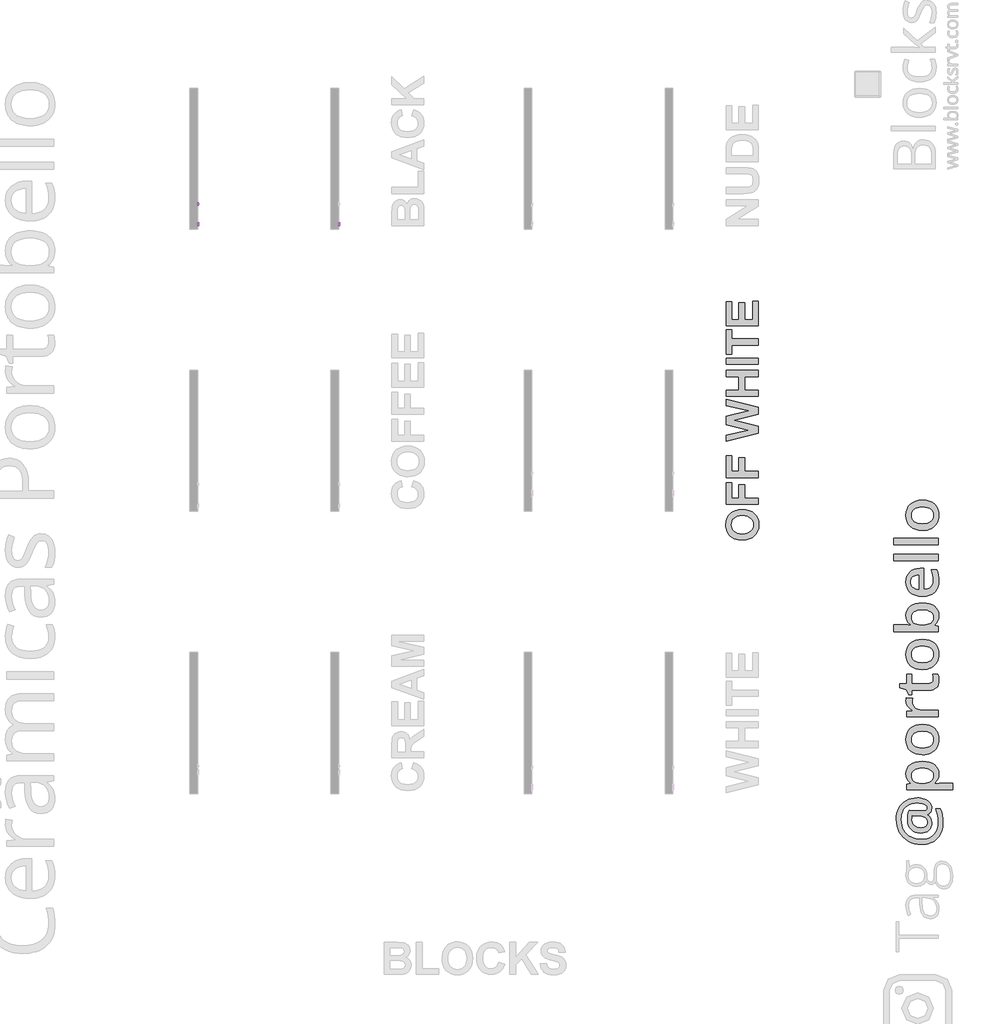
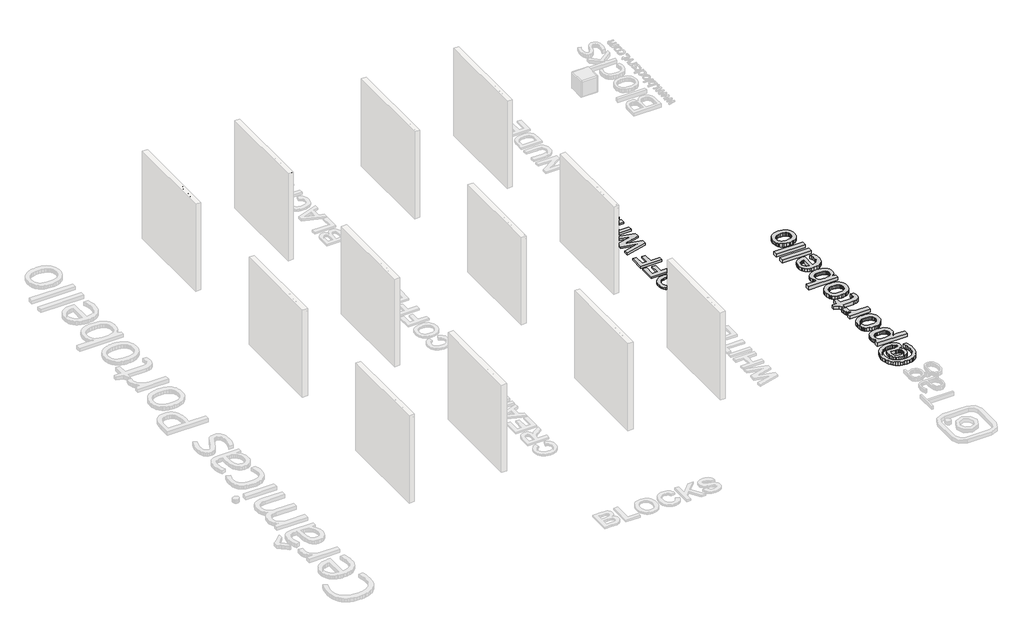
# One storey, part 6 of 8: 5 proxies.
"""IFC4 building model written with IfcOpenShell, lengths in millimetres."""

from ifc_helpers import new_model, si_unit, frame, origin, origin_with_axes, place, context, project, spatial, polyline, outline, extrude, element, save

model = new_model("IFC4")

# Units and contexts
model_context = context("Model", 3, world=origin())
ifc_project = project(units=[si_unit("LENGTHUNIT", "METRE", prefix="MILLI")], contexts=[model_context])

# Site, building, storey
site = spatial("IfcSite", under=ifc_project)
building = spatial("IfcBuilding", under=site)
storey = spatial("IfcBuildingStorey", under=building, Name="PORTOBELLO - SHOWROOM", Elevation=0.0)

# Proxies
placement = place(None, origin())
element("IfcBuildingElementProxy", 1, Name="10mm Arial", ObjectType="10mm Arial", at=placement, inside=storey, context=model_context, shape_type="SweptSolid", body=[
    extrude(outline(polyline([(1635.0884642, 2548.8308244), (1635.0884642, 2649.2871345), (1673.4217681, 2649.2871345), (1692.1960126, 2646.3318158), (1703.2815234, 2637.2451306), (1707.2914371, 2624.3937862), (1703.9191855, 2612.6583505), (1693.7288542, 2603.767869), (1706.101952, 2594.3991409), (1710.4306968, 2578.7764188), (1707.4753781, 2565.2751496), (1700.1545264, 2555.6611668), (1689.2284311, 2550.5598698), (1673.1274625, 2548.8308244), (1635.0884642, 2548.8308244)]), holes=[polyline([(1647.645503, 2608.4767585), (1670.576814, 2608.4767585), (1683.9677186, 2609.5558791), (1692.0243343, 2614.2034549), (1694.7343983, 2622.382698), (1692.2082753, 2630.5742037), (1684.9732627, 2635.4179833), (1668.8355059, 2636.7300958), (1647.645503, 2636.7300958), (1647.645503, 2608.4767585)]), polyline([(1647.645503, 2561.3878632), (1673.3972426, 2561.3878632), (1682.7169198, 2561.8783725), (1690.6018573, 2564.612962), (1695.8257816, 2570.1925056), (1697.873658, 2578.6537915), (1695.4701623, 2588.4149271), (1687.6833268, 2594.2397253), (1672.1709693, 2595.9197198), (1647.645503, 2595.9197198), (1647.645503, 2561.3878632)])]), frame((17014.625413, 0.0, 0.0), z_axis=(1.0, 0.0, 0.0), x_axis=(0.0, 1.0, 0.0)), (0.0, 0.0, 1.0), 20.0),
    extrude(outline(polyline([(17034.625413, 1738.684034), (17034.625413, 1726.1269953), (17014.625413, 1726.1269953), (17014.625413, 1738.684034), (17034.625413, 1738.684034)])), frame((0.0, 0.0, 2548.8308244), z_axis=(0.0, 0.0, 1.0), x_axis=(1.0, 0.0, 0.0)), (0.0, 0.0, 1.0), 100.4563101),
    extrude(outline(polyline([(1804.6084876, 2558.2486035), (1792.4315935, 2549.7382666), (1778.9793752, 2547.2611945), (1768.4855413, 2548.7511166), (1760.744691, 2553.2208829), (1755.9714221, 2560.0083057), (1754.3803325, 2568.4511975), (1756.7838282, 2578.3840113), (1763.0991358, 2585.5944984), (1771.8915155, 2589.7147768), (1782.7562971, 2591.6032377), (1804.5349112, 2595.9197198), (1804.6084876, 2598.7156229), (1801.1503968, 2607.9862492), (1787.2689829, 2611.6160182), (1774.5647913, 2609.2002598), (1768.5070011, 2600.6286093), (1755.9499623, 2602.1982392), (1761.3823531, 2614.4609723), (1772.3207111, 2621.646934), (1788.8876636, 2624.173057), (1804.1057155, 2621.9412396), (1812.7018915, 2616.3371705), (1816.5523897, 2607.8145709), (1817.1655263, 2596.827162), (1817.1655263, 2581.20444), (1817.8031885, 2559.3890376), (1820.304786, 2548.8308244), (1807.7477473, 2548.8308244), (1804.6084876, 2558.2486035)]), holes=[polyline([(1804.6084876, 2583.362681), (1784.3504524, 2579.5121828), (1773.5469844, 2577.4765691), (1768.6541539, 2574.1656311), (1766.9373713, 2569.3341142), (1770.6775049, 2562.5405601), (1781.6526511, 2559.8182333), (1794.3568426, 2562.8226029), (1802.5483484, 2570.0944037), (1804.5349112, 2579.8064884), (1804.6084876, 2583.362681)])]), frame((17014.625413, 0.0, 0.0), z_axis=(1.0, 0.0, 0.0), x_axis=(0.0, 1.0, 0.0)), (0.0, 0.0, 1.0), 20.0),
    extrude(outline(polyline([(1881.52035, 2575.5145318), (1894.0773888, 2573.9449019), (1890.5763785, 2562.7766177), (1883.9974221, 2554.3367916), (1874.9597878, 2549.0300938), (1864.0827435, 2547.2611945), (1850.7255613, 2549.7290696), (1840.2807784, 2557.1326947), (1833.5393408, 2569.1471076), (1831.292195, 2585.4473456), (1835.1304304, 2606.3062548), (1846.8290779, 2619.7094221), (1863.9110652, 2624.173057), (1874.5213951, 2622.6402154), (1883.0041407, 2618.0416904), (1889.0895221, 2610.6227368), (1892.5077589, 2600.6286093), (1879.9507202, 2599.0589795), (1874.1259219, 2608.4644958), (1864.0091671, 2611.6160182), (1855.8943034, 2610.0647825), (1849.4533028, 2605.4110752), (1845.250251, 2597.4035105), (1843.8492337, 2585.7907022), (1845.2195942, 2574.021544), (1849.3306754, 2565.9863881), (1855.6551801, 2561.360272), (1863.6658105, 2559.8182333), (1875.499348, 2563.6687315), (1881.52035, 2575.5145318)])), frame((17014.625413, 0.0, 0.0), z_axis=(1.0, 0.0, 0.0), x_axis=(0.0, 1.0, 0.0)), (0.0, 0.0, 1.0), 20.0),
    extrude(outline(polyline([(1905.0647977, 2548.8308244), (1905.0647977, 2649.2871345), (1917.6218365, 2649.2871345), (1917.6218365, 2595.3065831), (1945.7770718, 2622.6034272), (1963.141102, 2622.6034272), (1934.6425101, 2594.9632266), (1964.7107319, 2548.8308244), (1950.044503, 2548.8308244), (1925.641664, 2586.2321606), (1917.6218365, 2578.4575877), (1917.6218365, 2548.8308244), (1905.0647977, 2548.8308244)])), frame((17014.625413, 0.0, 0.0), z_axis=(1.0, 0.0, 0.0), x_axis=(0.0, 1.0, 0.0)), (0.0, 0.0, 1.0), 20.0),
])
element("IfcBuildingElementProxy", 2, Name="10mm Arial", ObjectType="10mm Arial", at=placement, inside=storey, context=model_context, shape_type="SweptSolid", body=[
    extrude(outline(polyline([(1635.0884642, 2548.8308244), (1635.0884642, 2649.2871345), (1673.4217681, 2649.2871345), (1692.1960126, 2646.3318158), (1703.2815234, 2637.2451306), (1707.2914371, 2624.3937862), (1703.9191855, 2612.6583505), (1693.7288542, 2603.767869), (1706.101952, 2594.3991409), (1710.4306968, 2578.7764188), (1707.4753781, 2565.2751496), (1700.1545264, 2555.6611668), (1689.2284311, 2550.5598698), (1673.1274625, 2548.8308244), (1635.0884642, 2548.8308244)]), holes=[polyline([(1647.645503, 2608.4767585), (1670.576814, 2608.4767585), (1683.9677186, 2609.5558791), (1692.0243343, 2614.2034549), (1694.7343983, 2622.382698), (1692.2082753, 2630.5742037), (1684.9732627, 2635.4179833), (1668.8355059, 2636.7300958), (1647.645503, 2636.7300958), (1647.645503, 2608.4767585)]), polyline([(1647.645503, 2561.3878632), (1673.3972426, 2561.3878632), (1682.7169198, 2561.8783725), (1690.6018573, 2564.612962), (1695.8257816, 2570.1925056), (1697.873658, 2578.6537915), (1695.4701623, 2588.4149271), (1687.6833268, 2594.2397253), (1672.1709693, 2595.9197198), (1647.645503, 2595.9197198), (1647.645503, 2561.3878632)])]), frame((14314.625413, 0.0, 0.0), z_axis=(1.0, 0.0, 0.0), x_axis=(0.0, 1.0, 0.0)), (0.0, 0.0, 1.0), 20.0),
    extrude(outline(polyline([(14334.625413, 1738.684034), (14334.625413, 1726.1269953), (14314.625413, 1726.1269953), (14314.625413, 1738.684034), (14334.625413, 1738.684034)])), frame((0.0, 0.0, 2548.8308244), z_axis=(0.0, 0.0, 1.0), x_axis=(1.0, 0.0, 0.0)), (0.0, 0.0, 1.0), 100.4563101),
    extrude(outline(polyline([(1804.6084876, 2558.2486035), (1792.4315935, 2549.7382666), (1778.9793752, 2547.2611945), (1768.4855413, 2548.7511166), (1760.744691, 2553.2208829), (1755.9714221, 2560.0083057), (1754.3803325, 2568.4511975), (1756.7838282, 2578.3840113), (1763.0991358, 2585.5944984), (1771.8915155, 2589.7147768), (1782.7562971, 2591.6032377), (1804.5349112, 2595.9197198), (1804.6084876, 2598.7156229), (1801.1503968, 2607.9862492), (1787.2689829, 2611.6160182), (1774.5647913, 2609.2002598), (1768.5070011, 2600.6286093), (1755.9499623, 2602.1982392), (1761.3823531, 2614.4609723), (1772.3207111, 2621.646934), (1788.8876636, 2624.173057), (1804.1057155, 2621.9412396), (1812.7018915, 2616.3371705), (1816.5523897, 2607.8145709), (1817.1655263, 2596.827162), (1817.1655263, 2581.20444), (1817.8031885, 2559.3890376), (1820.304786, 2548.8308244), (1807.7477473, 2548.8308244), (1804.6084876, 2558.2486035)]), holes=[polyline([(1804.6084876, 2583.362681), (1784.3504524, 2579.5121828), (1773.5469844, 2577.4765691), (1768.6541539, 2574.1656311), (1766.9373713, 2569.3341142), (1770.6775049, 2562.5405601), (1781.6526511, 2559.8182333), (1794.3568426, 2562.8226029), (1802.5483484, 2570.0944037), (1804.5349112, 2579.8064884), (1804.6084876, 2583.362681)])]), frame((14314.625413, 0.0, 0.0), z_axis=(1.0, 0.0, 0.0), x_axis=(0.0, 1.0, 0.0)), (0.0, 0.0, 1.0), 20.0),
    extrude(outline(polyline([(1881.52035, 2575.5145318), (1894.0773888, 2573.9449019), (1890.5763785, 2562.7766177), (1883.9974221, 2554.3367916), (1874.9597878, 2549.0300938), (1864.0827435, 2547.2611945), (1850.7255613, 2549.7290696), (1840.2807784, 2557.1326947), (1833.5393408, 2569.1471076), (1831.292195, 2585.4473456), (1835.1304304, 2606.3062548), (1846.8290779, 2619.7094221), (1863.9110652, 2624.173057), (1874.5213951, 2622.6402154), (1883.0041407, 2618.0416904), (1889.0895221, 2610.6227368), (1892.5077589, 2600.6286093), (1879.9507202, 2599.0589795), (1874.1259219, 2608.4644958), (1864.0091671, 2611.6160182), (1855.8943034, 2610.0647825), (1849.4533028, 2605.4110752), (1845.250251, 2597.4035105), (1843.8492337, 2585.7907022), (1845.2195942, 2574.021544), (1849.3306754, 2565.9863881), (1855.6551801, 2561.360272), (1863.6658105, 2559.8182333), (1875.499348, 2563.6687315), (1881.52035, 2575.5145318)])), frame((14314.625413, 0.0, 0.0), z_axis=(1.0, 0.0, 0.0), x_axis=(0.0, 1.0, 0.0)), (0.0, 0.0, 1.0), 20.0),
    extrude(outline(polyline([(1905.0647977, 2548.8308244), (1905.0647977, 2649.2871345), (1917.6218365, 2649.2871345), (1917.6218365, 2595.3065831), (1945.7770718, 2622.6034272), (1963.141102, 2622.6034272), (1934.6425101, 2594.9632266), (1964.7107319, 2548.8308244), (1950.044503, 2548.8308244), (1925.641664, 2586.2321606), (1917.6218365, 2578.4575877), (1917.6218365, 2548.8308244), (1905.0647977, 2548.8308244)])), frame((14314.625413, 0.0, 0.0), z_axis=(1.0, 0.0, 0.0), x_axis=(0.0, 1.0, 0.0)), (0.0, 0.0, 1.0), 20.0),
])
element("IfcBuildingElementProxy", 3, Name="10mm Arial Narrow", ObjectType="10mm Arial Narrow", at=placement, inside=storey, context=model_context, shape_type="SweptSolid", body=[
    extrude(outline(polyline([(2024.6117137, 2548.8308244), (2024.6117137, 2649.5494281), (2055.9085984, 2649.5494281), (2072.2042999, 2647.6711074), (2083.677286, 2638.1906642), (2087.9669644, 2621.1715554), (2086.180656, 2609.0957299), (2080.8217308, 2599.4693361), (2071.077942, 2593.1680777), (2056.1370428, 2591.0676582), (2034.3586753, 2591.0676582), (2034.3586753, 2548.8308244), (2024.6117137, 2548.8308244)]), holes=[polyline([(2034.3586753, 2602.4391135), (2057.3300303, 2602.4391135), (2073.1942257, 2606.9699277), (2078.2200028, 2620.6385184), (2075.7451883, 2630.8042949), (2069.7675595, 2636.6042447), (2057.1015858, 2638.1779729), (2034.3586753, 2638.1779729), (2034.3586753, 2602.4391135)])]), frame((14314.625413, 0.0, 0.0), z_axis=(1.0, 0.0, 0.0), x_axis=(0.0, 1.0, 0.0)), (0.0, 0.0, 1.0), 20.0),
    extrude(outline(polyline([(2096.0894325, 2585.3819306), (2098.0439013, 2601.9727061), (2103.907308, 2613.9247909), (2112.7658747, 2621.1493455), (2123.7058238, 2623.5575304), (2134.5188594, 2621.1493455), (2143.4028088, 2613.9247909), (2149.3423636, 2602.1630765), (2151.3222152, 2586.143412), (2149.3772648, 2568.9815254), (2143.5424137, 2556.8390702), (2134.6933655, 2549.6145156), (2123.7058238, 2547.2063308), (2112.8451956, 2549.6208613), (2103.9707647, 2556.8644529), (2098.0597655, 2568.8228834), (2096.0894325, 2585.3819306)]), holes=[polyline([(2105.8363941, 2585.4073133), (2107.140431, 2572.8555619), (2111.0525416, 2563.9843038), (2116.8937383, 2558.7110453), (2123.9850337, 2556.9532924), (2130.7051068, 2558.7269095), (2136.3971801, 2564.0477606), (2140.2807352, 2572.9348829), (2141.5752535, 2585.4073133), (2140.2712167, 2597.9209906), (2136.3591061, 2606.7795573), (2130.5179093, 2612.0528159), (2123.426614, 2613.8105687), (2116.6589482, 2612.0432974), (2110.9763934, 2606.7414833), (2107.1213939, 2597.873398), (2105.8363941, 2585.4073133)])]), frame((14314.625413, 0.0, 0.0), z_axis=(1.0, 0.0, 0.0), x_axis=(0.0, 1.0, 0.0)), (0.0, 0.0, 1.0), 20.0),
    extrude(outline(polyline([(2222.799934, 2556.9532924), (2224.4244276, 2547.2063308), (2217.0634409, 2547.2063308), (2208.7886766, 2549.3257873), (2204.4736154, 2555.1257371), (2203.3060107, 2569.7715623), (2203.3060107, 2612.1860751), (2195.1835426, 2612.1860751), (2195.1835426, 2615.4350624), (2193.559049, 2610.5615815), (2185.9950006, 2612.1860751), (2179.915841, 2609.8635569), (2176.0449773, 2603.3782738), (2174.0651257, 2587.9709673), (2174.0651257, 2548.8308244), (2164.318164, 2548.8308244), (2164.318164, 2621.9330368), (2174.0651257, 2621.9330368), (2174.0651257, 2612.2368406), (2180.309273, 2621.3238517), (2186.7057166, 2623.5575304), (2195.1835426, 2621.9330368), (2203.3060107, 2621.9330368), (2203.3060107, 2638.1779729), (2213.0529723, 2646.3004409), (2213.0529723, 2621.9330368), (2222.799934, 2621.9330368), (2222.799934, 2612.1860751), (2213.0529723, 2612.1860751), (2213.0529723, 2567.5378836), (2213.9159845, 2559.5423291), (2218.5356382, 2556.9532924), (2222.799934, 2556.9532924)])), frame((14314.625413, 0.0, 0.0), z_axis=(1.0, 0.0, 0.0), x_axis=(0.0, 1.0, 0.0)), (0.0, 0.0, 1.0), 20.0),
    extrude(outline(polyline([(2229.2979084, 2585.3819306), (2231.2523773, 2601.9727061), (2237.1157839, 2613.9247909), (2245.9743506, 2621.1493455), (2256.9142997, 2623.5575304), (2267.7273353, 2621.1493455), (2276.6112848, 2613.9247909), (2282.5508395, 2602.1630765), (2284.5306911, 2586.143412), (2282.5857407, 2568.9815254), (2276.7508897, 2556.8390702), (2267.9018415, 2549.6145156), (2256.9142997, 2547.2063308), (2246.0536716, 2549.6208613), (2237.1792407, 2556.8644529), (2231.2682415, 2568.8228834), (2229.2979084, 2585.3819306)]), holes=[polyline([(2239.04487, 2585.4073133), (2240.3489069, 2572.8555619), (2244.2610175, 2563.9843038), (2250.1022142, 2558.7110453), (2257.1935096, 2556.9532924), (2263.9135828, 2558.7269095), (2269.6056561, 2564.0477606), (2273.4892111, 2572.9348829), (2274.7837294, 2585.4073133), (2273.4796926, 2597.9209906), (2269.567582, 2606.7795573), (2263.7263852, 2612.0528159), (2256.6350899, 2613.8105687), (2249.8674241, 2612.0432974), (2244.1848694, 2606.7414833), (2240.3298699, 2597.873398), (2239.04487, 2585.4073133)])]), frame((14314.625413, 0.0, 0.0), z_axis=(1.0, 0.0, 0.0), x_axis=(0.0, 1.0, 0.0)), (0.0, 0.0, 1.0), 20.0),
    extrude(outline(polyline([(2307.2736016, 2548.8308244), (2297.52664, 2548.8308244), (2297.52664, 2649.5494281), (2307.2736016, 2649.5494281), (2307.2736016, 2614.140544), (2314.6726624, 2621.2223208), (2323.8738957, 2623.5575304), (2336.7556224, 2619.3566915), (2346.0330038, 2606.6272611), (2349.5104355, 2585.9403503), (2347.5781765, 2569.4860068), (2341.7813995, 2557.2832677), (2333.4082771, 2549.725565), (2323.7469821, 2547.2063308), (2314.4061439, 2549.8207502), (2307.2736016, 2557.5878602), (2307.2736016, 2548.8308244)]), holes=[polyline([(2307.2736016, 2585.9403503), (2309.3549841, 2568.692797), (2315.2437734, 2559.9611439), (2323.6962167, 2556.9532924), (2329.6389443, 2558.7427737), (2334.8773016, 2564.1112174), (2339.7634738, 2585.5342269), (2335.0549806, 2606.9699277), (2329.8102776, 2612.1004085), (2323.493155, 2613.8105687), (2317.5155262, 2612.0210875), (2312.2232306, 2606.6526438), (2307.2736016, 2585.9403503)])]), frame((14314.625413, 0.0, 0.0), z_axis=(1.0, 0.0, 0.0), x_axis=(0.0, 1.0, 0.0)), (0.0, 0.0, 1.0), 20.0),
    extrude(outline(polyline([(2401.4942309, 2571.5737349), (2411.2411926, 2569.9492413), (2407.5416622, 2560.0626747), (2401.7226754, 2552.9428238), (2394.0190221, 2548.640454), (2384.6654925, 2547.2063308), (2373.0719385, 2549.6208613), (2363.9278162, 2556.8644529), (2357.9882615, 2568.6705872), (2356.0084099, 2584.7727455), (2357.99778, 2601.4396692), (2363.9658903, 2613.6201984), (2372.9799261, 2621.0731974), (2384.1070728, 2623.5575304), (2394.790022, 2621.1588641), (2403.5375393, 2613.962865), (2409.3723904, 2602.2233604), (2411.3173407, 2586.1941774), (2411.2411926, 2582.9451902), (2365.7553715, 2582.9451902), (2371.7583831, 2563.5020323), (2377.6884193, 2558.5904774), (2384.792406, 2556.9532924), (2394.9708738, 2560.608403), (2401.4942309, 2571.5737349)]), holes=[polyline([(2366.4153221, 2592.6921518), (2401.4942309, 2592.6921518), (2397.2299352, 2606.9572363), (2391.4046027, 2612.0972356), (2384.1832209, 2613.8105687), (2371.9741361, 2608.0994584), (2366.4153221, 2592.6921518)])]), frame((14314.625413, 0.0, 0.0), z_axis=(1.0, 0.0, 0.0), x_axis=(0.0, 1.0, 0.0)), (0.0, 0.0, 1.0), 20.0),
    extrude(outline(polyline([(14334.625413, 2433.9841031), (14334.625413, 2424.2371415), (14314.625413, 2424.2371415), (14314.625413, 2433.9841031), (14334.625413, 2433.9841031)])), frame((0.0, 0.0, 2548.8308244), z_axis=(0.0, 0.0, 1.0), x_axis=(1.0, 0.0, 0.0)), (0.0, 0.0, 1.0), 100.7186038),
    extrude(outline(polyline([(14334.625413, 2459.9760009), (14334.625413, 2450.2290392), (14314.625413, 2450.2290392), (14314.625413, 2459.9760009), (14334.625413, 2459.9760009)])), frame((0.0, 0.0, 2548.8308244), z_axis=(0.0, 0.0, 1.0), x_axis=(1.0, 0.0, 0.0)), (0.0, 0.0, 1.0), 100.7186038),
    extrude(outline(polyline([(2471.3474561, 2585.3819306), (2473.301925, 2601.9727061), (2479.1653316, 2613.9247909), (2488.0238983, 2621.1493455), (2498.9638475, 2623.5575304), (2509.7768831, 2621.1493455), (2518.6608325, 2613.9247909), (2524.6003872, 2602.1630765), (2526.5802388, 2586.143412), (2524.6352885, 2568.9815254), (2518.8004374, 2556.8390702), (2509.9513892, 2549.6145156), (2498.9638475, 2547.2063308), (2488.1032193, 2549.6208613), (2479.2287884, 2556.8644529), (2473.3177892, 2568.8228834), (2471.3474561, 2585.3819306)]), holes=[polyline([(2481.0944178, 2585.4073133), (2482.3984546, 2572.8555619), (2486.3105652, 2563.9843038), (2492.151762, 2558.7110453), (2499.2430573, 2556.9532924), (2505.9631305, 2558.7269095), (2511.6552038, 2564.0477606), (2515.5387588, 2572.9348829), (2516.8332772, 2585.4073133), (2515.5292403, 2597.9209906), (2511.6171297, 2606.7795573), (2505.775933, 2612.0528159), (2498.6846376, 2613.8105687), (2491.9169719, 2612.0432974), (2486.2344171, 2606.7414833), (2482.3794176, 2597.873398), (2481.0944178, 2585.4073133)])]), frame((14314.625413, 0.0, 0.0), z_axis=(1.0, 0.0, 0.0), x_axis=(0.0, 1.0, 0.0)), (0.0, 0.0, 1.0), 20.0),
])
element("IfcBuildingElementProxy", 4, Name="600mm Arial", ObjectType="600mm Arial", at=placement, inside=storey, context=model_context, shape_type="SweptSolid", body=[
    extrude(outline(polyline([(24745.6422373, -4372.7858442), (24700.8350862, -4371.0683316), (24659.7855869, -4365.9157939), (24622.4937394, -4357.3282311), (24588.9595437, -4345.3056431), (24544.7217338, -4321.0706867), (24505.2284337, -4289.3583828), (24472.9088326, -4252.2183597), (24450.1921194, -4211.7002455), (24439.6308404, -4182.5309989), (24432.0870698, -4151.1982558), (24427.5608074, -4117.7020162), (24426.0520532, -4082.0422801), (24431.2852476, -4018.940299), (24446.9848307, -3962.4806316), (24473.1508026, -3912.6632781), (24509.7831632, -3869.4882384), (24531.7371964, -3850.8067308), (24555.7337412, -3834.616091), (24609.8543651, -3809.7074142), (24672.1450351, -3794.7622081), (24742.605751, -3789.7804728), (24812.5872714, -3794.7242521), (24874.503125, -3809.5555899), (24928.3533119, -3834.2744862), (24952.2537803, -3850.3417689), (24974.1378321, -3868.8809412), (25010.670558, -3911.7713103), (25036.7653622, -3961.3419493), (25052.4222447, -4017.5928582), (25057.6412056, -4080.5240369), (25052.4459673, -4144.1194471), (25036.8602524, -4200.8448069), (25010.8840609, -4250.7001165), (24974.5173929, -4293.6853758), (24929.0412659, -4328.2918307), (24875.7366976, -4353.0107271), (24814.6036881, -4367.8420649), (24745.6422373, -4372.7858442)]), holes=[polyline([(24741.3911565, -4256.1847699), (24789.8136241, -4253.086605), (24831.9923167, -4243.7921102), (24867.9272344, -4228.3012855), (24897.6183771, -4206.6141309), (24920.8664754, -4180.1539994), (24937.4722599, -4150.344244), (24947.4357306, -4117.1848646), (24950.7568875, -4080.6758612), (24947.4594531, -4044.2048139), (24937.5671501, -4011.1593028), (24921.0799783, -3981.5393277), (24897.9979379, -3955.3448888), (24868.3210287, -3933.9234268), (24832.0492508, -3918.6223825), (24789.1826043, -3909.4417559), (24739.721089, -3906.3815471), (24690.9475276, -3909.3610993), (24648.778324, -3918.2997558), (24613.2134781, -3933.1975168), (24584.2529899, -3954.0543821), (24561.8019693, -3979.8455377), (24545.765526, -4009.5461694), (24536.14366, -4043.1562773), (24532.9363713, -4080.6758612), (24536.1816161, -4118.2334013), (24545.9173503, -4151.9573773), (24562.143574, -4181.8477895), (24584.8602872, -4207.9046376), (24614.114935, -4229.0271955), (24649.9549625, -4244.1147368), (24692.3803696, -4253.1672616), (24741.3911565, -4256.1847699)])]), origin_with_axes(), (0.0, 0.0, 1.0), 50.0),
    extrude(outline(polyline([(25047.9244494, -3692.6129109), (24435.7688094, -3692.6129109), (24435.7688094, -3274.7923947), (24542.6531275, -3274.7923947), (24542.6531275, -3576.0118366), (24678.6877142, -3576.0118366), (24678.6877142, -3313.6594195), (24785.5720323, -3313.6594195), (24785.5720323, -3576.0118366), (25047.9244494, -3576.0118366), (25047.9244494, -3692.6129109)])), origin_with_axes(), (0.0, 0.0, 1.0), 50.0),
    extrude(outline(polyline([(25047.9244494, -3177.6248328), (24435.7688094, -3177.6248328), (24435.7688094, -2759.8043166), (24542.6531275, -2759.8043166), (24542.6531275, -3061.0237585), (24678.6877142, -3061.0237585), (24678.6877142, -2798.6713414), (24785.5720323, -2798.6713414), (24785.5720323, -3061.0237585), (25047.9244494, -3061.0237585), (25047.9244494, -3177.6248328)])), origin_with_axes(), (0.0, 0.0, 1.0), 50.0),
    extrude(outline(polyline([(25047.9244494, -2333.6334631), (24435.7688094, -2487.7351433), (24435.7688094, -2368.0975827), (24856.3221633, -2269.108129), (24435.7688094, -2162.6792839), (24435.7688094, -2005.844766), (24863.3060818, -1899.8713938), (24435.7688094, -1800.8819401), (24435.7688094, -1681.2443795), (25047.9244494, -1833.068695), (25047.9244494, -1971.0769978), (24590.3259626, -2084.4897614), (25047.9244494, -2200.1798898), (25047.9244494, -2333.6334631)])), origin_with_axes(), (0.0, 0.0, 1.0), 50.0),
    extrude(outline(polyline([(25047.9244494, -1622.9438424), (24435.7688094, -1622.9438424), (24435.7688094, -1506.3427681), (24678.6877142, -1506.3427681), (24678.6877142, -1243.990351), (24435.7688094, -1243.990351), (24435.7688094, -1127.3892767), (25047.9244494, -1127.3892767), (25047.9244494, -1243.990351), (24785.5720323, -1243.990351), (24785.5720323, -1506.3427681), (25047.9244494, -1506.3427681), (25047.9244494, -1622.9438424)])), origin_with_axes(), (0.0, 0.0, 1.0), 50.0),
    extrude(outline(polyline([(25047.9244494, -1010.7882024), (24435.7688094, -1010.7882024), (24435.7688094, -894.1871282), (25047.9244494, -894.1871282), (25047.9244494, -1010.7882024)])), origin_with_axes(), (0.0, 0.0, 1.0), 50.0),
    extrude(outline(polyline([(25047.9244494, -641.5514672), (24542.6531275, -641.5514672), (24542.6531275, -816.4530786), (24435.7688094, -816.4530786), (24435.7688094, -350.0487815), (24542.6531275, -350.0487815), (24542.6531275, -524.9503929), (25047.9244494, -524.9503929), (25047.9244494, -641.5514672)])), origin_with_axes(), (0.0, 0.0, 1.0), 50.0),
    extrude(outline(polyline([(25047.9244494, -272.314732), (24435.7688094, -272.314732), (24435.7688094, 184.3728089), (24542.6531275, 184.3728089), (24542.6531275, -155.7136577), (24678.6877142, -155.7136577), (24678.6877142, 164.9392966), (24785.5720323, 164.9392966), (24785.5720323, -155.7136577), (24941.0401313, -155.7136577), (24941.0401313, 194.0895651), (25047.9244494, 194.0895651), (25047.9244494, -272.314732)])), origin_with_axes(), (0.0, 0.0, 1.0), 50.0),
])
element("IfcBuildingElementProxy", 5, Name="80mm OpenSans Bold", ObjectType="80mm OpenSans Bold", at=placement, inside=storey, context=model_context, shape_type="SweptSolid", body=[
    extrude(outline(polyline([(28088.588782, -9309.9050274), (28126.6943967, -9311.4523873), (28163.1324682, -9316.0944669), (28197.9029966, -9323.8312662), (28231.0059818, -9334.6627853), (28261.4874689, -9348.3035888), (28288.3935032, -9364.4682415), (28311.7240845, -9383.1567432), (28331.479213, -9404.369094), (28347.2006897, -9427.7146983), (28358.4303159, -9452.8029603), (28365.1680917, -9479.63388), (28367.4140169, -9508.2074574), (28361.7053106, -9548.8294097), (28354.5694277, -9566.9770867), (28344.5791917, -9583.6825641), (28332.155244, -9598.3599485), (28317.7182261, -9610.4233463), (28301.2681382, -9619.8727576), (28282.8049801, -9626.7081822), (28282.8049801, -9633.4384465), (28319.8214337, -9663.6044526), (28346.2617577, -9700.2603563), (28362.1259521, -9742.6249663), (28367.4140169, -9789.9170913), (28363.8610984, -9832.5821596), (28353.2023428, -9870.4398962), (28335.4377501, -9903.4903012), (28310.5673203, -9931.7333746), (28279.6276344, -9954.3428562), (28243.6552731, -9970.4924859), (28202.6502366, -9980.1822637), (28156.6125247, -9983.4121897), (28103.4689757, -9979.1306599), (28055.5684228, -9966.2860707), (28012.910866, -9944.878422), (27975.4963053, -9914.9077139), (27945.0523754, -9877.7260082), (27923.3067112, -9834.6853672), (27910.2593127, -9785.7857907), (27905.9101798, -9731.0272788), (27907.742975, -9686.7096902), (27913.2413606, -9637.8852283), (27921.984695, -9589.6616828), (27933.5523367, -9547.1468437), (28184.7354147, -9559.4055393), (28197.4748436, -9559.4055393), (28235.3325802, -9555.8000406), (28262.3738207, -9544.9835444), (28271.8382548, -9536.8711723), (28278.598565, -9526.9560508), (28284.006813, -9501.7175597), (28280.544032, -9480.9634076), (28270.1556888, -9462.4476694), (28252.8417834, -9446.1703449), (28228.6023159, -9432.1314342), (28198.9996691, -9420.8266934), (28165.5962257, -9412.7518786), (28128.3919857, -9407.9069897), (28087.3869491, -9406.2920267), (28042.2956806, -9408.7107154), (28000.0437424, -9415.9667816), (27960.6311345, -9428.0602253), (27924.0578568, -9444.9910464), (27890.9173143, -9466.3836722), (27861.8029121, -9491.8625298), (27836.7146501, -9521.4276194), (27815.6525283, -9555.0789409), (27798.9846082, -9592.0803715), (27787.0789509, -9631.6957888), (27779.9355566, -9673.9251927), (27777.5544251, -9718.7685831), (27780.5439845, -9775.7429744), (27789.5126626, -9828.8865234), (27804.4604594, -9878.1992299), (27825.3873749, -9923.6810941), (27851.8652562, -9964.6711078), (27883.4659502, -10000.5082628), (27920.1894571, -10031.1925593), (27962.0357767, -10056.7239971), (28008.2237177, -10076.8096296), (28057.9720887, -10091.15651), (28111.2808896, -10099.7646382), (28168.1501206, -10102.6340143), (28242.3257455, -10097.2783464), (28307.412509, -10081.2113427), (28336.5475677, -10069.1610899), (28363.4104111, -10054.4330032), (28388.0010391, -10037.0270825), (28410.3194518, -10016.9433278), (28430.1778628, -9994.3582585), (28447.3884856, -9969.4483936), (28461.9513203, -9942.2137331), (28473.8663669, -9912.6542772), (28489.7530956, -9846.5609786), (28495.0486719, -9771.1684979), (28491.9539522, -9709.454378), (28482.6697929, -9646.418242), (28467.1961942, -9582.0600897), (28445.533156, -9516.3799212), (28535.6706242, -9516.3799212), (28556.2820586, -9575.6002378), (28571.0045117, -9637.4044951), (28579.8379836, -9701.7926932), (28582.7824743, -9768.7648321), (28581.0867631, -9818.3798747), (28575.9996298, -9865.1893887), (28567.5210742, -9909.1933739), (28555.6510963, -9950.3918305), (28540.3896963, -9988.7847584), (28521.7368739, -10024.3721575), (28499.6926294, -10057.154028), (28474.2569626, -10087.1303697), (28445.7866677, -10113.9180986), (28414.6385388, -10137.1341302), (28380.812576, -10156.7784647), (28344.3087793, -10172.851102), (28305.1271486, -10185.3520421), (28263.2676839, -10194.281285), (28218.7303853, -10199.6388308), (28171.5152527, -10201.4246794), (28102.4474177, -10197.5637912), (28037.3005626, -10185.9811265), (27976.0746874, -10166.6766854), (27918.769792, -10139.6504679), (27866.6703353, -10105.7738027), (27821.0607764, -10065.9180189), (27781.9411152, -10020.0831163), (27749.3113518, -9968.269095), (27723.599639, -9911.6477421), (27705.2341298, -9851.3908446), (27694.2148243, -9787.4984026), (27690.5417225, -9719.970416), (27693.6063964, -9661.749123), (27702.8004182, -9606.7878018), (27718.1237878, -9555.0864523), (27739.5765052, -9506.6450746), (27766.6928602, -9462.4626923), (27799.0071426, -9423.5383289), (27836.5193522, -9389.8719846), (27879.2294892, -9361.4636592), (27926.2962705, -9338.9067578), (27976.8784131, -9322.7946853), (28030.9759169, -9313.1274419), (28088.588782, -9309.9050274)]), holes=[polyline([(28158.5354573, -9878.1316268), (28187.9428063, -9876.542954), (28213.4291755, -9871.7769353), (28234.9945647, -9863.8335709), (28252.6389741, -9852.7128608), (28266.3624036, -9838.4148049), (28276.1648533, -9820.9394033), (28282.0463231, -9800.2866559), (28284.006813, -9776.4565627), (28281.5430556, -9751.1730029), (28274.1517832, -9728.9240712), (28261.8329959, -9709.7097675), (28244.5866936, -9693.530092), (28222.4128765, -9680.3850445), (28195.3115443, -9670.2746252), (28163.2826973, -9663.1988339), (28126.3263354, -9659.1576708), (27997.7302141, -9652.4274065), (27990.8797665, -9688.7227604), (27988.596284, -9727.42178), (27991.4581486, -9761.0355442), (28000.0437424, -9790.7283285), (28014.3530655, -9816.500133), (28034.3861178, -9838.3509575), (28059.3166392, -9855.7550004), (28088.3183696, -9868.1864595), (28121.391309, -9875.645335), (28158.5354573, -9878.1316268)])]), origin_with_axes(), (0.0, 0.0, 1.0), 100.0),
    extrude(outline(polyline([(28505.8651681, -8851.2855893), (28500.6672407, -8904.8422683), (28485.0734587, -8952.0592787), (28459.0838221, -8992.9366205), (28422.6983308, -9027.4742937), (28422.6983308, -9035.1660244), (28516.6816643, -9027.4742937), (28767.3840091, -9027.4742937), (28767.3840091, -9156.3107816), (27890.5267186, -9156.3107816), (27890.5267186, -9051.9916851), (27967.6843914, -9033.9641914), (27967.6843914, -9027.4742937), (27945.9950631, -9011.6439009), (27927.1976452, -8993.9581785), (27911.2921378, -8974.4171265), (27898.2785409, -8953.020745), (27888.1568543, -8929.769034), (27880.9270782, -8904.6619933), (27875.1432574, -8848.8819234), (27880.3036274, -8796.07639), (27895.7847376, -8749.4302502), (27921.5865878, -8708.9435041), (27957.7091782, -8674.6161516), (28003.1459736, -8647.2744529), (28056.890439, -8627.7446682), (28118.9425744, -8616.0267973), (28189.3023798, -8612.1208403), (28259.8349487, -8616.0944004), (28322.1650079, -8628.0150806), (28376.2925576, -8647.8828808), (28422.2175976, -8675.6978012), (28458.8134097, -8710.5133983), (28484.9532755, -8751.3832287), (28500.6371949, -8798.3072923), (28505.8651681, -8851.2855893)]), holes=[polyline([(27982.827486, -8882.7736115), (27985.6217475, -8917.859621), (27994.0045321, -8947.8829093), (28007.9758396, -8972.8434766), (28027.5356702, -8992.7413227), (28053.2248487, -9007.9369975), (28085.5841997, -9018.791051), (28124.6137235, -9025.303483), (28170.3134198, -9027.4742937), (28189.3023798, -9027.4742937), (28240.6506908, -9025.3260174), (28284.3673629, -9018.8811884), (28320.452396, -9008.1398068), (28348.9057901, -8993.1018725), (28370.4636679, -8973.1814921), (28385.8621521, -8947.7927719), (28395.1012426, -8916.9357119), (28398.1809394, -8880.6103122), (28394.7707385, -8849.6856492), (28384.5401359, -8822.5317369), (28367.4891315, -8799.1485754), (28343.6177253, -8779.5361646), (28313.4517193, -8764.0250086), (28277.5169153, -8752.9456115), (28235.8133134, -8746.2979732), (28188.3409135, -8744.0820938), (28140.710773, -8746.2829503), (28099.2550491, -8752.8855198), (28063.9737417, -8763.8898024), (28034.866851, -8779.295798), (28012.0996288, -8798.9683004), (27995.8373273, -8822.7721035), (27986.0799463, -8850.7072072), (27982.827486, -8882.7736115)])]), origin_with_axes(), (0.0, 0.0, 1.0), 100.0),
    extrude(outline(polyline([(28189.3023798, -7904.0008903), (28259.8349487, -7908.8082219), (28322.1650079, -7923.2302168), (28376.2925576, -7947.266875), (28422.2175976, -7980.9181964), (28441.8224969, -8001.0902107), (28458.8134097, -8023.1476003), (28473.1903359, -8047.0903653), (28484.9532755, -8072.9185056), (28500.6371949, -8130.2309125), (28505.8651681, -8195.0848209), (28503.4539908, -8236.7358426), (28496.220459, -8275.8780382), (28484.1645726, -8312.5114075), (28467.2863317, -8346.6359507), (28445.9087288, -8377.6131939), (28420.3547566, -8404.8046635), (28390.624415, -8428.2103594), (28356.717704, -8447.8302817), (28319.2580746, -8463.3414376), (28278.8689774, -8474.4208348), (28235.5504124, -8481.068473), (28189.3023798, -8483.2843525), (28119.3331701, -8478.5145781), (28057.4913555, -8464.205255), (28003.7769359, -8440.3563833), (27958.1899114, -8406.9679627), (27938.7258518, -8386.9104982), (27921.8570002, -8364.8962995), (27907.5833566, -8340.9253665), (27895.9049209, -8314.9976994), (27880.3336732, -8257.2721625), (27875.1432574, -8191.7196887), (27880.461368, -8128.8262703), (27896.4156998, -8072.8283682), (27923.006253, -8023.7259824), (27960.2330273, -7981.5191129), (28006.4585256, -7947.6048905), (28060.0452504, -7923.3804459), (28120.9932018, -7908.8457792), (28189.3023798, -7904.0008903)]), holes=[polyline([(28189.3023798, -8350.6019993), (28238.2582922, -8348.1382418), (28280.6867496, -8340.7469694), (28316.5877521, -8328.4281821), (28345.9612995, -8311.1818799), (28368.807392, -8289.0080627), (28385.1260294, -8261.9067306), (28394.9172119, -8229.8778836), (28398.1809394, -8192.9215216), (28394.9172119, -8156.3031752), (28385.1260294, -8124.5672749), (28368.807392, -8097.7138209), (28345.9612995, -8075.742813), (28316.5877521, -8058.6542513), (28280.6867496, -8046.4481358), (28238.2582922, -8039.1244665), (28189.3023798, -8036.6832434), (28140.9098266, -8039.1394894), (28098.9696138, -8046.5082275), (28063.4817414, -8058.7894575), (28034.4462095, -8075.9831796), (28011.863018, -8098.0893936), (27995.7321669, -8125.1080997), (27986.0536562, -8157.0392978), (27982.827486, -8193.882988), (27986.1625723, -8232.2740379), (27996.1678313, -8265.0014504), (28012.8432629, -8292.0652252), (28036.1888672, -8313.4653624), (28065.7689797, -8329.7126411), (28101.1479359, -8341.3178401), (28142.325736, -8348.2809595), (28189.3023798, -8350.6019993)])]), origin_with_axes(), (0.0, 0.0, 1.0), 100.0),
    extrude(outline(polyline([(27875.1432574, -7453.3135493), (27876.5253652, -7418.6406699), (27880.6716887, -7390.5778715), (28000.8549796, -7402.8365671), (27995.8072814, -7430.2383575), (27994.1247154, -7458.6016141), (27997.2645038, -7494.6566014), (28006.6838693, -7527.10609), (28022.3828116, -7555.9500798), (28044.361331, -7581.1885709), (28071.3575027, -7601.6948449), (28102.1094022, -7616.3421835), (28136.6170296, -7625.1305866), (28174.8803849, -7628.0600543), (28490.4817068, -7628.0600543), (28490.4817068, -7756.8965422), (27890.5267186, -7756.8965422), (27890.5267186, -7655.9425778), (27992.6825159, -7638.8765505), (27992.6825159, -7632.3866528), (27967.0384062, -7616.5900615), (27944.188558, -7598.5250106), (27924.1329713, -7578.1915), (27906.8716462, -7555.5895299), (27892.9904761, -7531.3951311), (27883.0753546, -7506.2843348), (27877.1262817, -7480.2571409), (27875.1432574, -7453.3135493)])), origin_with_axes(), (0.0, 0.0, 1.0), 100.0),
    extrude(outline(polyline([(28398.1809394, -7034.3545972), (28394.515349, -6986.4615558), (28383.5185779, -6938.4483311), (28483.2707094, -6938.4483311), (28492.1041813, -6963.206089), (28499.3752704, -6994.213378), (28504.2426936, -7028.9463491), (28505.8651681, -7064.8811531), (28502.83054, -7108.2598097), (28493.7266557, -7145.8546453), (28478.5535152, -7177.6656602), (28457.3111185, -7203.6928541), (28429.9994657, -7223.9362272), (28396.6185566, -7238.3957794), (28357.1683914, -7247.0715107), (28311.64897, -7249.9634211), (27982.827486, -7249.9634211), (27982.827486, -7333.6109916), (27928.7450051, -7333.6109916), (27884.0368209, -7243.9542566), (27752.0755675, -7199.9671721), (27752.0755675, -7120.4058335), (27890.5267186, -7120.4058335), (27890.5267186, -6944.6978622), (27982.827486, -6944.6978622), (27982.827486, -7120.4058335), (28307.3223715, -7120.4058335), (28329.007944, -7118.9260767), (28347.6739114, -7114.4868064), (28363.3202736, -7107.0880226), (28375.9470306, -7096.7297252), (28385.6743657, -7083.9527391), (28392.6224622, -7069.297889), (28398.1809394, -7034.3545972)])), origin_with_axes(), (0.0, 0.0, 1.0), 100.0),
    extrude(outline(polyline([(28189.3023798, -6273.3539991), (28259.8349487, -6278.1613308), (28322.1650079, -6292.5833257), (28376.2925576, -6316.6199839), (28422.2175976, -6350.2713053), (28441.8224969, -6370.4433195), (28458.8134097, -6392.5007092), (28473.1903359, -6416.4434741), (28484.9532755, -6442.2716145), (28500.6371949, -6499.5840214), (28505.8651681, -6564.4379297), (28503.4539908, -6606.0889515), (28496.220459, -6645.231147), (28484.1645726, -6681.8645164), (28467.2863317, -6715.9890596), (28445.9087288, -6746.9663028), (28420.3547566, -6774.1577724), (28390.624415, -6797.5634683), (28356.717704, -6817.1833905), (28319.2580746, -6832.6945465), (28278.8689774, -6843.7739436), (28235.5504124, -6850.4215819), (28189.3023798, -6852.6374613), (28119.3331701, -6847.867687), (28057.4913555, -6833.5583639), (28003.7769359, -6809.7094921), (27958.1899114, -6776.3210716), (27938.7258518, -6756.2636071), (27921.8570002, -6734.2494083), (27907.5833566, -6710.2784754), (27895.9049209, -6684.3508082), (27880.3336732, -6626.6252713), (27875.1432574, -6561.0727976), (27880.461368, -6498.1793792), (27896.4156998, -6442.181477), (27923.006253, -6393.0790912), (27960.2330273, -6350.8722218), (28006.4585256, -6316.9579994), (28060.0452504, -6292.7335548), (28120.9932018, -6278.198888), (28189.3023798, -6273.3539991)]), holes=[polyline([(28189.3023798, -6719.9551082), (28238.2582922, -6717.4913507), (28280.6867496, -6710.1000783), (28316.5877521, -6697.781291), (28345.9612995, -6680.5349887), (28368.807392, -6658.3611716), (28385.1260294, -6631.2598395), (28394.9172119, -6599.2309924), (28398.1809394, -6562.2746305), (28394.9172119, -6525.656284), (28385.1260294, -6493.9203838), (28368.807392, -6467.0669297), (28345.9612995, -6445.0959218), (28316.5877521, -6428.0073602), (28280.6867496, -6415.8012447), (28238.2582922, -6408.4775754), (28189.3023798, -6406.0363523), (28140.9098266, -6408.4925983), (28098.9696138, -6415.8613363), (28063.4817414, -6428.1425664), (28034.4462095, -6445.3362884), (28011.863018, -6467.4425025), (27995.7321669, -6494.4612086), (27986.0536562, -6526.3924067), (27982.827486, -6563.2360968), (27986.1625723, -6601.6271468), (27996.1678313, -6634.3545592), (28012.8432629, -6661.418334), (28036.1888672, -6682.8184713), (28065.7689797, -6699.0657499), (28101.1479359, -6710.6709489), (28142.325736, -6717.6340684), (28189.3023798, -6719.9551082)])]), origin_with_axes(), (0.0, 0.0, 1.0), 100.0),
    extrude(outline(polyline([(27875.1432574, -5818.3400597), (27880.3036274, -5765.5345263), (27895.7847376, -5718.8883865), (27921.5865878, -5678.4016404), (27957.7091782, -5644.0742879), (28003.1459736, -5616.7325892), (28056.890439, -5597.2028044), (28118.9425744, -5585.4849336), (28189.3023798, -5581.5789766), (28260.0302465, -5585.5300023), (28322.4654661, -5597.3830794), (28376.6080387, -5617.1382078), (28422.4579642, -5644.7953876), (28458.9486159, -5679.48329), (28485.0133671, -5720.330586), (28500.6522178, -5767.3372756), (28505.8651681, -5820.503359), (28500.6672407, -5874.1651984), (28485.0734587, -5921.4573233), (28459.0838221, -5962.3797339), (28422.6983308, -5996.93243), (28422.6983308, -6005.585627), (28490.4817068, -6029.141552), (28490.4817068, -6125.7689179), (27644.3913388, -6125.7689179), (27644.3913388, -5996.93243), (27844.3763349, -5996.93243), (27910.3569616, -5999.0957293), (27966.0018253, -6002.2204948), (27966.0018253, -5996.93243), (27944.7068484, -5980.8917164), (27926.2512018, -5963.0557649), (27910.6348854, -5943.4245755), (27897.8578993, -5921.9981481), (27887.9202435, -5898.7764829), (27880.8219178, -5873.7595797), (27875.1432574, -5818.3400597)]), holes=[polyline([(27982.827486, -5852.2317478), (27985.6743277, -5887.775956), (27994.2148528, -5917.9720079), (28008.4490613, -5942.8199033), (28028.3769533, -5962.3196422), (28054.9750178, -5977.102187), (28089.2197443, -5987.7984999), (28131.1111326, -5994.4085809), (28180.6491829, -5996.93243), (28189.3023798, -5996.93243), (28240.6506908, -5994.7841537), (28284.3673629, -5988.3393247), (28320.452396, -5977.5979431), (28348.9057901, -5962.5600088), (28370.4636679, -5942.6396284), (28385.8621521, -5917.2509081), (28395.1012426, -5886.3938482), (28398.1809394, -5850.0684485), (28394.8082958, -5818.5578919), (28384.690365, -5791.0884985), (28367.827147, -5767.6602682), (28344.2186418, -5748.2732011), (28314.2404222, -5733.0775263), (28278.2680609, -5722.2234728), (28236.301558, -5715.7110407), (28188.3409135, -5713.54023), (28140.1737039, -5715.707285), (28098.428789, -5722.2084499), (28063.1061686, -5733.0437247), (28034.2058429, -5748.2131095), (28011.7278117, -5767.7166042), (27995.6720752, -5791.5542088), (27986.0386333, -5819.7259233), (27982.827486, -5852.2317478)])]), origin_with_axes(), (0.0, 0.0, 1.0), 100.0),
    extrude(outline(polyline([(28505.8651681, -5152.7649946), (28500.6897751, -5219.5793929), (28485.1635962, -5278.6870377), (28473.518962, -5305.3508275), (28459.2866314, -5330.0879289), (28442.4666043, -5352.898342), (28423.0588806, -5373.7820666), (28377.7422685, -5408.6427324), (28324.5987196, -5433.543208), (28263.6282338, -5448.4834934), (28194.8308112, -5453.4635885), (28124.2982423, -5448.8440433), (28061.7278165, -5434.9854075), (28007.1195337, -5411.8876813), (27960.4733939, -5379.5508646), (27923.1414592, -5339.1317216), (27896.4757915, -5291.7870164), (27880.4763909, -5237.5167491), (27875.1432574, -5176.3209197), (27879.6351078, -5119.6019178), (27893.1106593, -5069.14747), (27915.5699118, -5024.9575762), (27947.0128653, -4987.0322365), (27986.3278244, -4956.5883066), (28032.4030935, -4934.8426424), (28085.2386728, -4921.7952439), (28144.8345622, -4917.446111), (28213.5794046, -4917.446111), (28213.5794046, -5320.7812353), (28255.4783044, -5316.8151867), (28292.2393685, -5307.5610733), (28323.8625969, -5293.0188951), (28350.3479896, -5273.1886521), (28371.2749052, -5248.4308942), (28386.222702, -5219.1061712), (28395.1913801, -5185.2144832), (28398.1809394, -5146.7558301), (28395.6570903, -5094.9868775), (28388.085543, -5046.8835153), (28374.6250144, -4998.9003364), (28354.4342215, -4947.4919338), (28462.3588168, -4947.4919338), (28482.6697929, -4994.8741962), (28496.0101382, -5042.7972834), (28503.4014106, -5094.3859611), (28505.8651681, -5152.7649946)]), holes=[polyline([(27967.4440248, -5176.5612862), (27969.9002708, -5205.5780395), (27977.2690088, -5231.5751877), (27989.5502388, -5254.5527306), (28006.7439609, -5274.5106683), (28028.6398542, -5291.1034739), (28055.027598, -5303.9856204), (28085.9071923, -5313.1571078), (28121.2786371, -5318.6179361), (28121.2786371, -5044.1192996), (28085.7118945, -5046.8309351), (28054.7271398, -5053.7640087), (28028.3243731, -5064.9185204), (28006.5035943, -5080.2944702), (27989.4150326, -5099.4261478), (27977.2089172, -5121.847843), (27969.8852479, -5147.5595558), (27967.4440248, -5176.5612862)])]), origin_with_axes(), (0.0, 0.0, 1.0), 100.0),
    extrude(outline(polyline([(28490.4817068, -4643.6685743), (28490.4817068, -4772.5050622), (27644.3913388, -4772.5050622), (27644.3913388, -4643.6685743), (28490.4817068, -4643.6685743)])), origin_with_axes(), (0.0, 0.0, 1.0), 100.0),
    extrude(outline(polyline([(28490.4817068, -4335.9993496), (28490.4817068, -4464.8358374), (27644.3913388, -4464.8358374), (27644.3913388, -4335.9993496), (28490.4817068, -4335.9993496)])), origin_with_axes(), (0.0, 0.0, 1.0), 100.0),
    extrude(outline(polyline([(28189.3023798, -3612.0152051), (28259.8349487, -3616.8225367), (28322.1650079, -3631.2445316), (28376.2925576, -3655.2811898), (28422.2175976, -3688.9325113), (28441.8224969, -3709.1045255), (28458.8134097, -3731.1619151), (28473.1903359, -3755.1046801), (28484.9532755, -3780.9328205), (28500.6371949, -3838.2452273), (28505.8651681, -3903.0991357), (28503.4539908, -3944.7501575), (28496.220459, -3983.892353), (28484.1645726, -4020.5257224), (28467.2863317, -4054.6502655), (28445.9087288, -4085.6275088), (28420.3547566, -4112.8189783), (28390.624415, -4136.2246743), (28356.717704, -4155.8445965), (28319.2580746, -4171.3557525), (28278.8689774, -4182.4351496), (28235.5504124, -4189.0827879), (28189.3023798, -4191.2986673), (28119.3331701, -4186.528893), (28057.4913555, -4172.2195699), (28003.7769359, -4148.3706981), (27958.1899114, -4114.9822776), (27938.7258518, -4094.924813), (27921.8570002, -4072.9106143), (27907.5833566, -4048.9396814), (27895.9049209, -4023.0120142), (27880.3336732, -3965.2864773), (27875.1432574, -3899.7340036), (27880.461368, -3836.8405851), (27896.4156998, -3780.842683), (27923.006253, -3731.7402972), (27960.2330273, -3689.5334277), (28006.4585256, -3655.6192053), (28060.0452504, -3631.3947608), (28120.9932018, -3616.860094), (28189.3023798, -3612.0152051)]), holes=[polyline([(28189.3023798, -4058.6163141), (28238.2582922, -4056.1525567), (28280.6867496, -4048.7612843), (28316.5877521, -4036.442497), (28345.9612995, -4019.1961947), (28368.807392, -3997.0223775), (28385.1260294, -3969.9210454), (28394.9172119, -3937.8921984), (28398.1809394, -3900.9358365), (28394.9172119, -3864.31749), (28385.1260294, -3832.5815898), (28368.807392, -3805.7281357), (28345.9612995, -3783.7571278), (28316.5877521, -3766.6685661), (28280.6867496, -3754.4624507), (28238.2582922, -3747.1387814), (28189.3023798, -3744.6975583), (28140.9098266, -3747.1538043), (28098.9696138, -3754.5225423), (28063.4817414, -3766.8037723), (28034.4462095, -3783.9974944), (28011.863018, -3806.1037085), (27995.7321669, -3833.1224146), (27986.0536562, -3865.0536127), (27982.827486, -3901.8973028), (27986.1625723, -3940.2883528), (27996.1678313, -3973.0157652), (28012.8432629, -4000.07954), (28036.1888672, -4021.4796773), (28065.7689797, -4037.7269559), (28101.1479359, -4049.3321549), (28142.325736, -4056.2952743), (28189.3023798, -4058.6163141)])]), origin_with_axes(), (0.0, 0.0, 1.0), 100.0),
])

save(model, "model.ifc")
